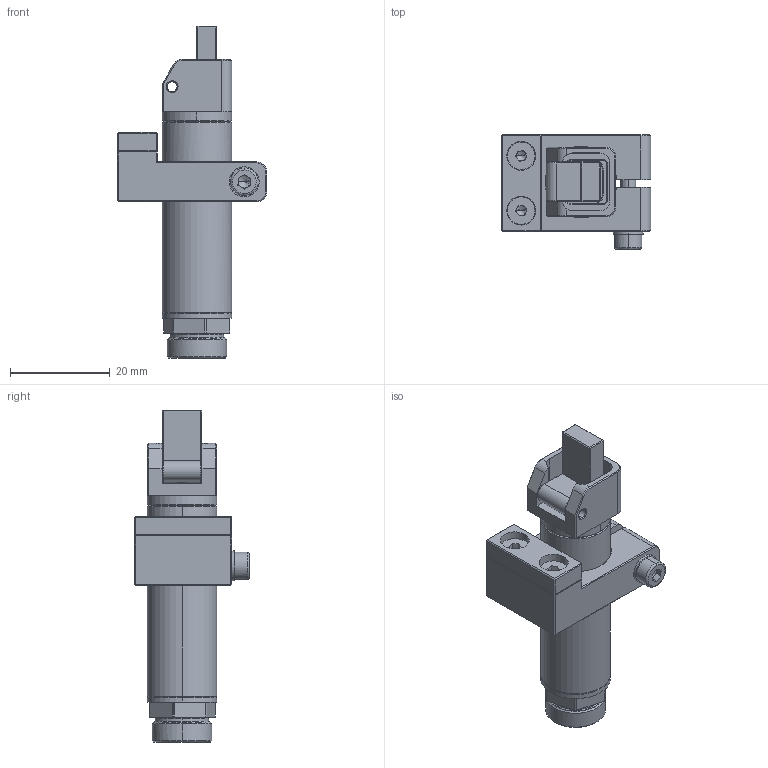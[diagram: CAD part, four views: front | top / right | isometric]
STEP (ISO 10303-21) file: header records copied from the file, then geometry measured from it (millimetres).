
FILE_DESCRIPTION (( 'STEP AP203' ), '1' );
FILE_NAME ('GFS14-90G.STEP', '2024-08-29T08:35:09', ( '微软用户' ), ( '微软中国' ), 'SwSTEP 2.0', 'SolidWorks 2018', '' );
FILE_SCHEMA (( 'CONFIG_CONTROL_DESIGN' ));
Length unit declared in the file: millimetre
Products named in the file (1): GFS14-90G
Bounding box: 30 x 23 x 66.7 mm (x, y, z)
Volume: 12581 mm3; surface area: 6782.9 mm2
Topology: 1 solids, 7 shells, 390 faces, 952 edges, 584 vertices
Faces by surface type: plane 203, cylinder 89, cone 86, bspline 12
Entity records: 12020 total; most frequent: CARTESIAN_POINT 2755, DIRECTION 1949, ORIENTED_EDGE 1892, EDGE_CURVE 946, AXIS2_PLACEMENT_3D 704, VERTEX_POINT 584, VECTOR 541, LINE 541
